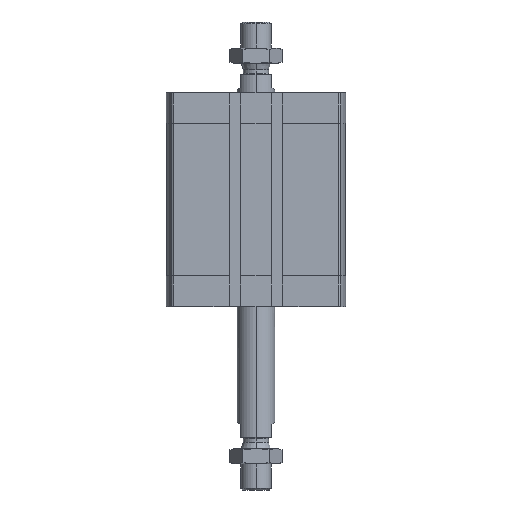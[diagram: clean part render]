
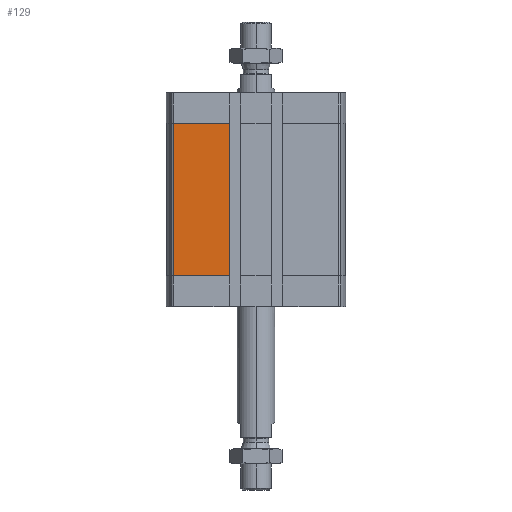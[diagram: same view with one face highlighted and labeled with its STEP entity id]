
A CAD part, left-side view. The second image highlights one B-rep face of the part: STEP entity #129.
In plain terms, the highlighted planar face has unit normal (-1, 0, 0).
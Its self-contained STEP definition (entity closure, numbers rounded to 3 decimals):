
#129 = ADVANCED_FACE ( 'NONE', ( #11727 ), #11456, .T. ) ;
#1028 = CARTESIAN_POINT ( 'NONE',  ( -47.5, 43.743, -16.5 ) ) ;
#1464 = EDGE_CURVE ( 'NONE', #11463, #17516, #13931, .T. ) ;
#1752 = CARTESIAN_POINT ( 'NONE',  ( -47.5, 43.743, -97.5 ) ) ;
#2465 = AXIS2_PLACEMENT_3D ( 'NONE', #16943, #14759, #7578 ) ;
#2499 = VECTOR ( 'NONE', #16313, 1000. ) ;
#2712 = CARTESIAN_POINT ( 'NONE',  ( -47.5, 14.3, -97.5 ) ) ;
#3165 = EDGE_LOOP ( 'NONE', ( #16164, #15805, #15086, #15717 ) ) ;
#5608 = VERTEX_POINT ( 'NONE', #2712 ) ;
#5721 = CARTESIAN_POINT ( 'NONE',  ( -47.5, 43.743, -16.5 ) ) ;
#5891 = CARTESIAN_POINT ( 'NONE',  ( -47.5, 14.3, -97.5 ) ) ;
#6325 = CARTESIAN_POINT ( 'NONE',  ( -47.5, 14.3, -16.5 ) ) ;
#7513 = LINE ( 'NONE', #5891, #17611 ) ;
#7578 = DIRECTION ( 'NONE',  ( 0., 0., 1. ) ) ;
#8263 = VECTOR ( 'NONE', #12581, 1000. ) ;
#8585 = VERTEX_POINT ( 'NONE', #1752 ) ;
#9395 = CARTESIAN_POINT ( 'NONE',  ( -47.5, 43.743, -97.5 ) ) ;
#9799 = VECTOR ( 'NONE', #13718, 1000. ) ;
#10342 = EDGE_CURVE ( 'NONE', #8585, #11463, #13700, .T. ) ;
#10816 = CARTESIAN_POINT ( 'NONE',  ( -47.5, 43.743, -97.5 ) ) ;
#11456 = PLANE ( 'NONE',  #2465 ) ;
#11463 = VERTEX_POINT ( 'NONE', #1028 ) ;
#11727 = FACE_OUTER_BOUND ( 'NONE', #3165, .T. ) ;
#12252 = EDGE_CURVE ( 'NONE', #8585, #5608, #16143, .T. ) ;
#12581 = DIRECTION ( 'NONE',  ( 0., -1., 0. ) ) ;
#13564 = EDGE_CURVE ( 'NONE', #5608, #17516, #7513, .T. ) ;
#13700 = LINE ( 'NONE', #10816, #2499 ) ;
#13718 = DIRECTION ( 'NONE',  ( 0., -1., 0. ) ) ;
#13931 = LINE ( 'NONE', #5721, #8263 ) ;
#14759 = DIRECTION ( 'NONE',  ( -1., 0., 0. ) ) ;
#15086 = ORIENTED_EDGE ( 'NONE', *, *, #12252, .T. ) ;
#15717 = ORIENTED_EDGE ( 'NONE', *, *, #13564, .T. ) ;
#15789 = DIRECTION ( 'NONE',  ( 0., 0., 1. ) ) ;
#15805 = ORIENTED_EDGE ( 'NONE', *, *, #10342, .F. ) ;
#16143 = LINE ( 'NONE', #9395, #9799 ) ;
#16164 = ORIENTED_EDGE ( 'NONE', *, *, #1464, .F. ) ;
#16313 = DIRECTION ( 'NONE',  ( 0., 0., 1. ) ) ;
#16943 = CARTESIAN_POINT ( 'NONE',  ( -47.5, 43.743, -97.5 ) ) ;
#17516 = VERTEX_POINT ( 'NONE', #6325 ) ;
#17611 = VECTOR ( 'NONE', #15789, 1000. ) ;
